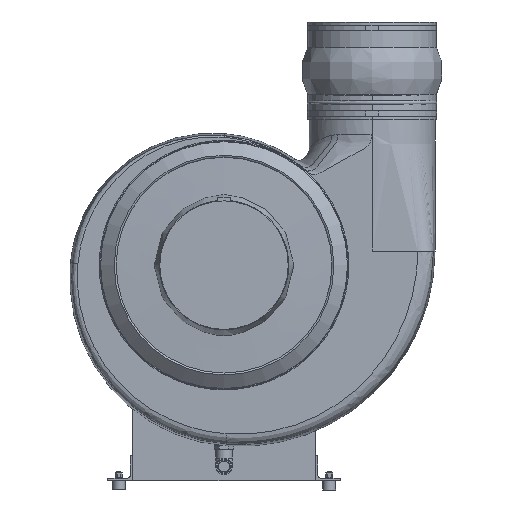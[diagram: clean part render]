
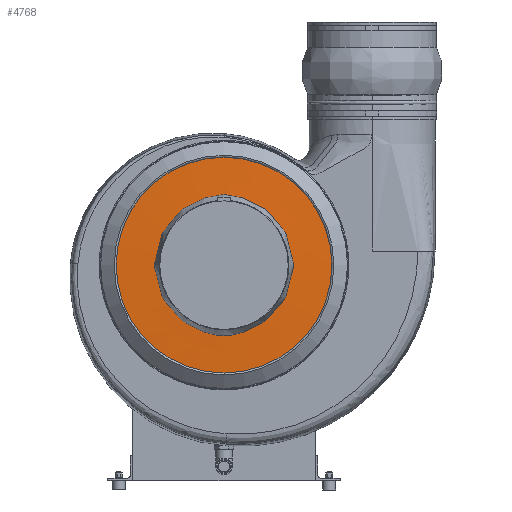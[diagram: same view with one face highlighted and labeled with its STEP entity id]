
A CAD part, front view. The second image highlights one B-rep face of the part: STEP entity #4768.
In plain terms, the highlighted conical face has half-angle 87.858 degrees and reference radius 135.667 mm.
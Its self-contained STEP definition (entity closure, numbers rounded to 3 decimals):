
#4768 = ADVANCED_FACE( '', ( #9473, #9474 ), #9475, .T. );
#9473 = FACE_BOUND( '', #39729, .T. );
#9474 = FACE_OUTER_BOUND( '', #39730, .T. );
#9475 = CONICAL_SURFACE( '', #39731, 135.667, 1.533 );
#39729 = EDGE_LOOP( '', ( #50736 ) );
#39730 = EDGE_LOOP( '', ( #50737 ) );
#39731 = AXIS2_PLACEMENT_3D( '', #50738, #50739, #50740 );
#50736 = ORIENTED_EDGE( '', *, *, #52380, .F. );
#50737 = ORIENTED_EDGE( '', *, *, #55049, .T. );
#50738 = CARTESIAN_POINT( '', ( 41.334, 0., 0. ) );
#50739 = DIRECTION( '', ( 1., 0., 0. ) );
#50740 = DIRECTION( '', ( 0., 0., -1. ) );
#52380 = EDGE_CURVE( '', #57368, #57368, #57369, .T. );
#55049 = EDGE_CURVE( '', #60907, #60907, #60908, .T. );
#57368 = VERTEX_POINT( '', #68455 );
#57369 = CIRCLE( '', #68456, 100. );
#60907 = VERTEX_POINT( '', #79248 );
#60908 = CIRCLE( '', #79249, 171.333 );
#68455 = CARTESIAN_POINT( '', ( 40., 0., 100. ) );
#68456 = AXIS2_PLACEMENT_3D( '', #80690, #80691, #80692 );
#79248 = CARTESIAN_POINT( '', ( 42.669, 0., 171.333 ) );
#79249 = AXIS2_PLACEMENT_3D( '', #82991, #82992, #82993 );
#80690 = CARTESIAN_POINT( '', ( 40., 0., 0. ) );
#80691 = DIRECTION( '', ( -1., 0., 0. ) );
#80692 = DIRECTION( '', ( 0., 0., 1. ) );
#82991 = CARTESIAN_POINT( '', ( 42.669, 0., 0. ) );
#82992 = DIRECTION( '', ( -1., 0., 0. ) );
#82993 = DIRECTION( '', ( 0., 0., 1. ) );
